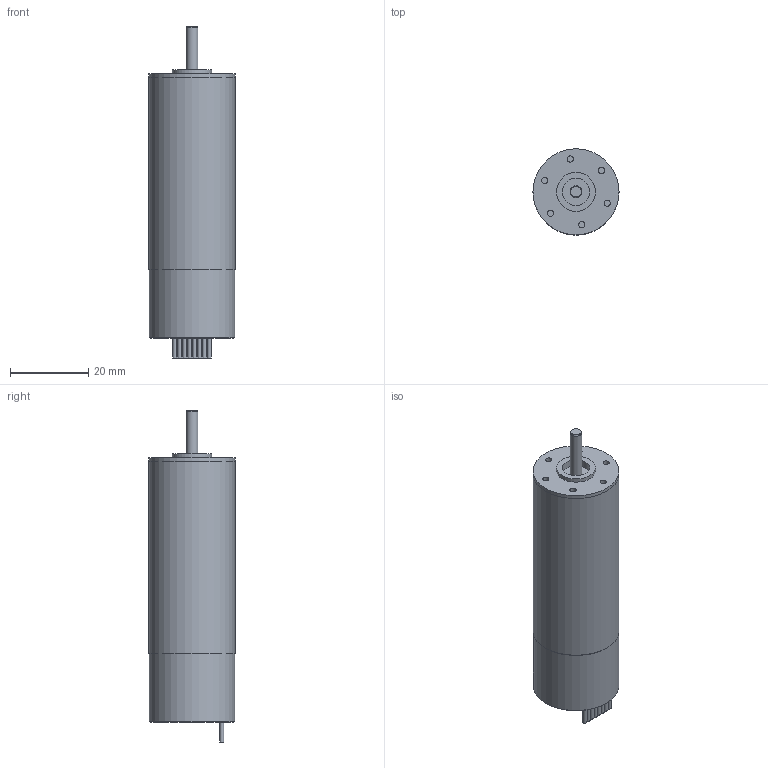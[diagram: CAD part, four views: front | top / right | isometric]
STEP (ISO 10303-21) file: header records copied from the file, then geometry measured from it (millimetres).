
FILE_DESCRIPTION(/* description */ (''),/* implementation_level */ '2;1');
FILE_NAME(/* name */ '2250.BX4_CSD_CCD.stp',/* time_stamp */ '2012-10-29T08:31:12+01:00',/* author */ ('DR. FRITZ FAULHABER GmbH & Co. KG'),/* organization */ ('DR. FRITZ FAULHABER GmbH & Co. KG'),/* preprocessor_version */ 'ST-DEVELOPER v11',/* originating_system */ 'SIEMENS PLM Software NX 7.5',/* authorisation */ '');
FILE_SCHEMA (('AUTOMOTIVE_DESIGN { 1 0 10303 214 1 1 1 1 }'));
Length unit declared in the file: millimetre
Products named in the file (1): 2250.BX4_CSD_CCD
Bounding box: 22 x 22 x 84.8 mm (x, y, z)
Volume: 25664.1 mm3; surface area: 5837.6 mm2
Topology: 1 solids, 1 shells, 59 faces, 130 edges, 87 vertices
Faces by surface type: plane 30, cylinder 28, cone 1
Full cylindrical faces by diameter (mm): 1.6 x6, 3 x1, 7 x1, 10 x1, 21.1 x1, 21.8 x1, 21.99 x1, 22 x2
Entity records: 1588 total; most frequent: DIRECTION 290, CARTESIAN_POINT 258, ORIENTED_EDGE 226, AXIS2_PLACEMENT_3D 117, EDGE_CURVE 113, EDGE_LOOP 88, VERTEX_POINT 85, ADVANCED_FACE 59
